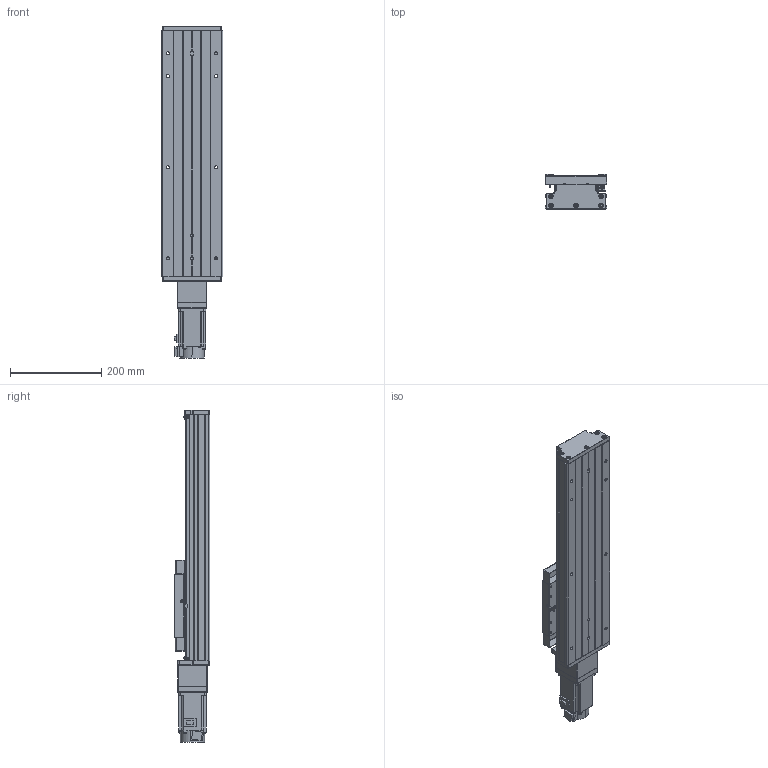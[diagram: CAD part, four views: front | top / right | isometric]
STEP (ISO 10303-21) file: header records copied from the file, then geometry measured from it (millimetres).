
FILE_DESCRIPTION (( 'STEP AP203' ), '1' );
FILE_NAME ('GTH14-300-BC-M40-C4.step', '2023-06-30T08:33:30', ( '微软用户' ), ( '微软中国' ), 'SwSTEP 2.0', 'SolidWorks 2020', '' );
FILE_SCHEMA (( 'CONFIG_CONTROL_DESIGN' ));
Length unit declared in the file: millimetre
Products named in the file (20): GBT70.1 M5℅16; GTH14-031; GTH14-300-BC-M40-C4; GBT 70.2-M3¡Á5_M3¡Á6; す晦芛蹟隊 M3℅5; GTH14-001_300; CTHA60-017; CTHA86-006-1_M40; GTH14-002_GTH14-002; EE_SX911P_R; CTHA86-013; GTH14-004; CTHA60-016; CTHA86-027-1; GTH14-005; GBT 70.1-M3℅5; HG-KN43J-S100; GB1155-6X6; GBT77-2000 M3×3; GBT 70.3-M3℅8
Assembly tree (57 placements, depth 2):
  GTH14-300-BC-M40-C4
    GTH14-001_300
    GTH14-002_GTH14-002
    GTH14-004
    GTH14-005
    GB1155-6X6  x2
    GBT70.1 M5℅16  x10
    GBT 70.2-M3¡Á5_M3¡Á6  x8
    CTHA60-017  x3
    EE_SX911P_R  x3
    CTHA60-016  x2
    GBT 70.1-M3℅5  x6
    GBT77-2000 M3×3  x6
    GTH14-031
    す晦芛蹟隊 M3℅5  x6
    CTHA86-006-1_M40
    CTHA86-013
    CTHA86-027-1
    HG-KN43J-S100
    GBT 70.3-M3℅8  x2
Bounding box: 135 x 78 x 728.7 mm (x, y, z)
Volume: 3688756 mm3; surface area: 623464.9 mm2
Topology: 60 solids, 60 shells, 2404 faces, 5733 edges, 3538 vertices
Faces by surface type: plane 1300, cylinder 640, cone 304, torus 120, sphere 20, bspline 20
Entity records: 44112 total; most frequent: CARTESIAN_POINT 9847, DIRECTION 6456, ORIENTED_EDGE 6350, EDGE_CURVE 3175, AXIS2_PLACEMENT_3D 2191, LINE 2074, VECTOR 2074, VERTEX_POINT 2006
